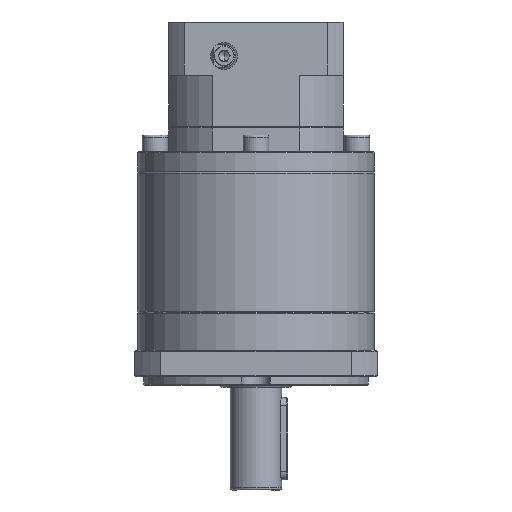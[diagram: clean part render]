
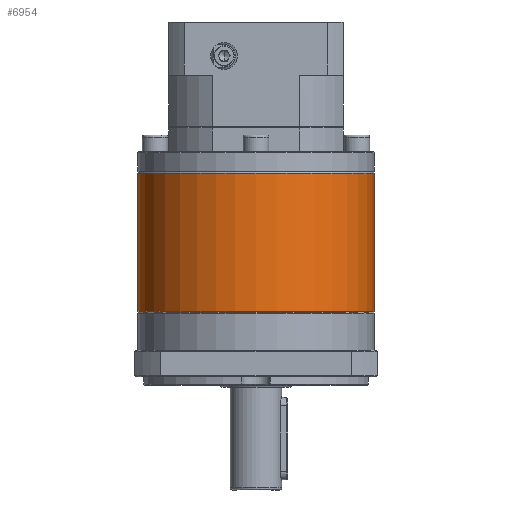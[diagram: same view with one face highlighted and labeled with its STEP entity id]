
A CAD part, front view. The second image highlights one B-rep face of the part: STEP entity #6954.
In plain terms, the highlighted cylindrical face has radius 57.5 mm (diameter 115 mm), a partial arc.
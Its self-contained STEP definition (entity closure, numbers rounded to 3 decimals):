
#511 = CARTESIAN_POINT ( 'NONE',  ( 60.929, 23.828, -162.412 ) ) ;
#4163 = EDGE_LOOP ( 'NONE', ( #53322, #67865, #114466, #51003, #77460 ) ) ;
#6528 = EDGE_CURVE ( 'NONE', #64671, #22826, #20568, .T. ) ;
#6954 = ADVANCED_FACE ( 'NONE', ( #94161 ), #12509, .T. ) ;
#12509 = CYLINDRICAL_SURFACE ( 'NONE', #40372, 57.5 ) ;
#12757 = VECTOR ( 'NONE', #100088, 1000. ) ;
#14457 = VERTEX_POINT ( 'NONE', #43085 ) ;
#17337 = CIRCLE ( 'NONE', #51831, 57.5 ) ;
#20568 = LINE ( 'NONE', #110826, #120972 ) ;
#20641 = DIRECTION ( 'NONE',  ( -1., 0., 0. ) ) ;
#22826 = VERTEX_POINT ( 'NONE', #68835 ) ;
#26431 = CARTESIAN_POINT ( 'NONE',  ( 60.929, 23.828, -95.201 ) ) ;
#31174 = CARTESIAN_POINT ( 'NONE',  ( 3.429, 23.828, -94.701 ) ) ;
#34746 = CARTESIAN_POINT ( 'NONE',  ( 60.929, 23.828, -95.201 ) ) ;
#38692 = VERTEX_POINT ( 'NONE', #123619 ) ;
#39378 = DIRECTION ( 'NONE',  ( 0., 0., -1. ) ) ;
#40235 = CIRCLE ( 'NONE', #46817, 57.5 ) ;
#40372 = AXIS2_PLACEMENT_3D ( 'NONE', #99582, #61354, #20641 ) ;
#42214 = VERTEX_POINT ( 'NONE', #107176 ) ;
#43085 = CARTESIAN_POINT ( 'NONE',  ( 3.429, 23.828, -95.201 ) ) ;
#46817 = AXIS2_PLACEMENT_3D ( 'NONE', #34746, #124640, #54049 ) ;
#51003 = ORIENTED_EDGE ( 'NONE', *, *, #129256, .T. ) ;
#51831 = AXIS2_PLACEMENT_3D ( 'NONE', #511, #111306, #79792 ) ;
#53322 = ORIENTED_EDGE ( 'NONE', *, *, #6528, .F. ) ;
#54049 = DIRECTION ( 'NONE',  ( -1., 0., 0. ) ) ;
#59392 = EDGE_CURVE ( 'NONE', #64671, #42214, #40235, .T. ) ;
#61354 = DIRECTION ( 'NONE',  ( 0., 0., -1. ) ) ;
#64671 = VERTEX_POINT ( 'NONE', #106109 ) ;
#67865 = ORIENTED_EDGE ( 'NONE', *, *, #59392, .T. ) ;
#68835 = CARTESIAN_POINT ( 'NONE',  ( 118.429, 23.828, -162.412 ) ) ;
#70100 = CIRCLE ( 'NONE', #85808, 57.5 ) ;
#76626 = EDGE_CURVE ( 'NONE', #42214, #14457, #70100, .T. ) ;
#77460 = ORIENTED_EDGE ( 'NONE', *, *, #124027, .T. ) ;
#79792 = DIRECTION ( 'NONE',  ( -1., 0., 0. ) ) ;
#85808 = AXIS2_PLACEMENT_3D ( 'NONE', #26431, #126476, #105844 ) ;
#94161 = FACE_OUTER_BOUND ( 'NONE', #4163, .T. ) ;
#97439 = LINE ( 'NONE', #31174, #12757 ) ;
#99582 = CARTESIAN_POINT ( 'NONE',  ( 60.929, 23.828, -94.701 ) ) ;
#100088 = DIRECTION ( 'NONE',  ( 0., 0., -1. ) ) ;
#105844 = DIRECTION ( 'NONE',  ( -1., 0., 0. ) ) ;
#106109 = CARTESIAN_POINT ( 'NONE',  ( 118.429, 23.828, -95.201 ) ) ;
#107176 = CARTESIAN_POINT ( 'NONE',  ( 60.929, -33.672, -95.201 ) ) ;
#110826 = CARTESIAN_POINT ( 'NONE',  ( 118.429, 23.828, -94.701 ) ) ;
#111306 = DIRECTION ( 'NONE',  ( 0., 0., 1. ) ) ;
#114466 = ORIENTED_EDGE ( 'NONE', *, *, #76626, .T. ) ;
#120972 = VECTOR ( 'NONE', #39378, 1000. ) ;
#123619 = CARTESIAN_POINT ( 'NONE',  ( 3.429, 23.828, -162.412 ) ) ;
#124027 = EDGE_CURVE ( 'NONE', #38692, #22826, #17337, .T. ) ;
#124640 = DIRECTION ( 'NONE',  ( 0., 0., -1. ) ) ;
#126476 = DIRECTION ( 'NONE',  ( 0., 0., -1. ) ) ;
#129256 = EDGE_CURVE ( 'NONE', #14457, #38692, #97439, .T. ) ;
